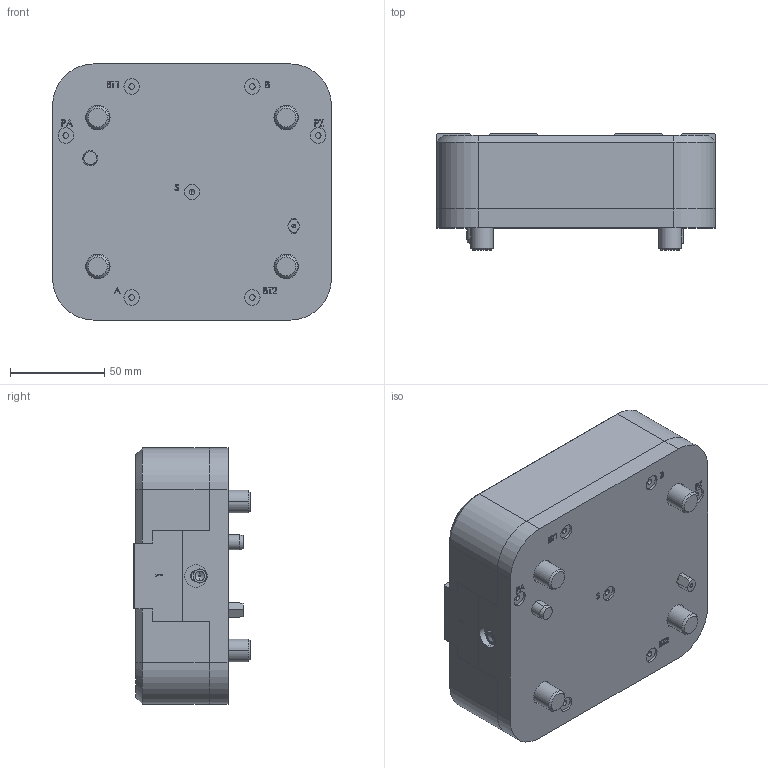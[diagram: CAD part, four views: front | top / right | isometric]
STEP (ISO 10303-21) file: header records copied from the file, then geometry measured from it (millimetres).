
FILE_DESCRIPTION (( 'STEP AP214' ), '1' );
FILE_NAME ('IFCC50-001.STEP', '2020-05-11T08:25:16', ( '' ), ( '' ), 'SwSTEP 2.0', 'SolidWorks 2014', '' );
FILE_SCHEMA (( 'AUTOMOTIVE_DESIGN' ));
Length unit declared in the file: millimetre
Products named in the file (10): Positionsstift-Schwert_03140_05; Positionsstift-Rund_03120_05; 97942_1106100; Abdeckblech-BG3; Seitenteil-BG3; Grundplatte-BG3-mod; Kulisse-1-BG3; Kulisse-2-BG3; IFCC50-001; DIN7991-12x60
Assembly tree (14 placements, depth 2):
  IFCC50-001
    Kulisse-2-BG3
    Kulisse-1-BG3
    Grundplatte-BG3-mod
    Seitenteil-BG3  x2
    Abdeckblech-BG3
    97942_1106100  x2
    Positionsstift-Rund_03120_05
    Positionsstift-Schwert_03140_05
    DIN7991-12x60  x4
Bounding box: 148 x 61.75 x 136 mm (x, y, z)
Volume: 940727.7 mm3; surface area: 165283.8 mm2
Topology: 14 solids, 14 shells, 733 faces, 1785 edges, 1091 vertices
Faces by surface type: plane 333, cone 166, cylinder 164, bspline 70
Entity records: 21964 total; most frequent: CARTESIAN_POINT 7022, ORIENTED_EDGE 2840, DIRECTION 2720, EDGE_CURVE 1420, LINE 918, VECTOR 918, VERTEX_POINT 911, AXIS2_PLACEMENT_3D 901
